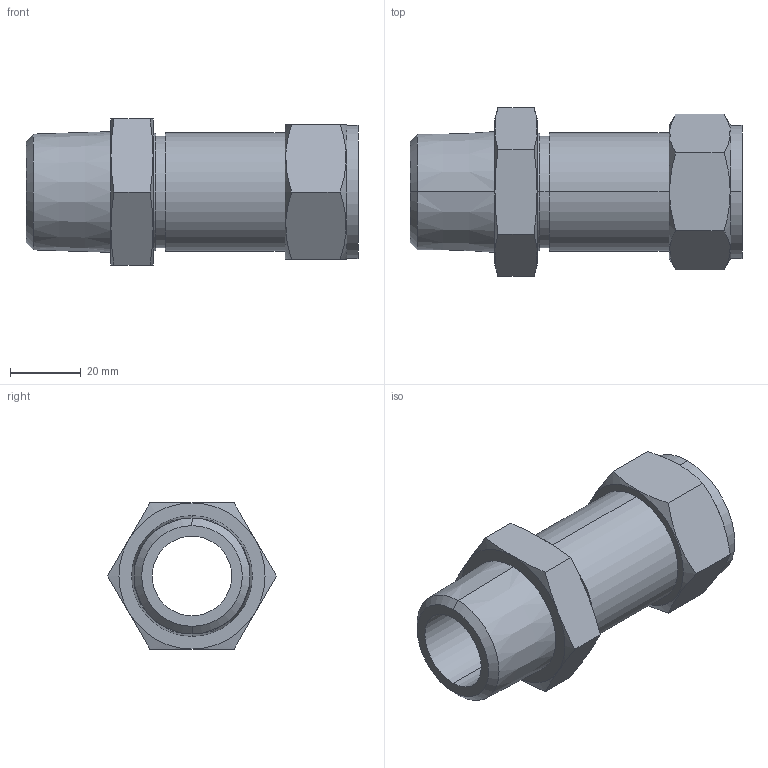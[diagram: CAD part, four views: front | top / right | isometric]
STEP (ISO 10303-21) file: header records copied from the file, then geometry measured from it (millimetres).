
FILE_DESCRIPTION (( 'STEP AP203' ), '1' );
FILE_NAME ('DSC16-16 SS.STEP', '2009-09-08T09:01:26', ( ' ' ), ( '' ), 'SwSTEP 2.0', 'SolidWorks 2008', '' );
FILE_SCHEMA (( 'CONFIG_CONTROL_DESIGN' ));
Length unit declared in the file: millimetre
Products named in the file (1): DSC16-16 SS
Bounding box: 93.8 x 47.67 x 41.28 mm (x, y, z)
Volume: 55088.5 mm3; surface area: 20382.9 mm2
Topology: 1 solids, 1 shells, 52 faces, 116 edges, 72 vertices
Faces by surface type: cone 20, plane 20, cylinder 12
Entity records: 1725 total; most frequent: CARTESIAN_POINT 529, ORIENTED_EDGE 232, DIRECTION 226, EDGE_CURVE 116, AXIS2_PLACEMENT_3D 97, VERTEX_POINT 72, EDGE_LOOP 60, ADVANCED_FACE 52
